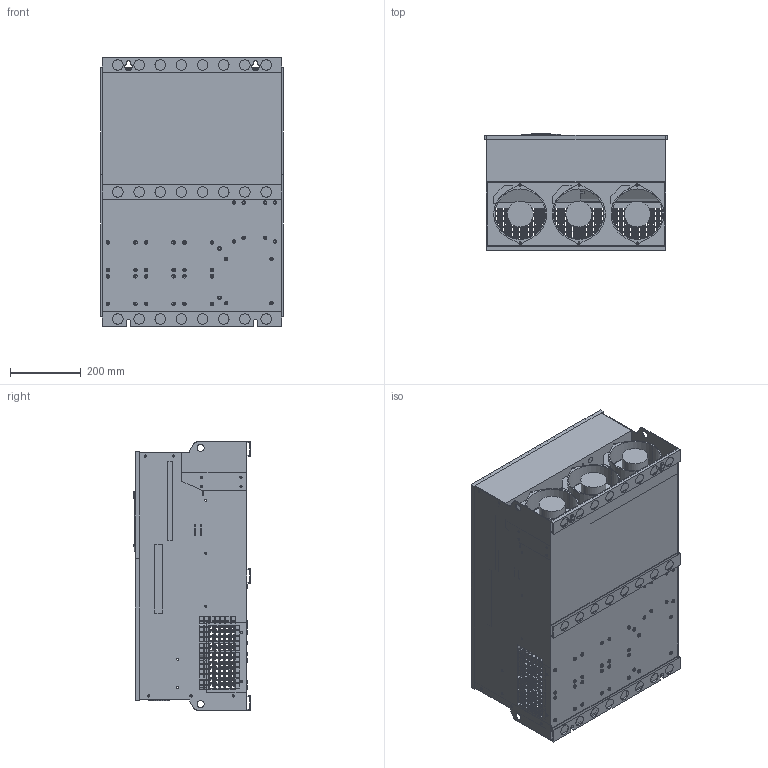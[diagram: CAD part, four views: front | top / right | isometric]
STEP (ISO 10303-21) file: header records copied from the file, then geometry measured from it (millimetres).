
FILE_DESCRIPTION((''),'2;1');
FILE_NAME('PRT0001','2015-11-11T',('Administrator'),(''),'PRO/ENGINEER BY PARAMETRIC TECHNOLOGY CORPORATION, 2013150','PRO/ENGINEER BY PARAMETRIC TECHNOLOGY CORPORATION, 2013150','');
FILE_SCHEMA(('CONFIG_CONTROL_DESIGN'));
Length unit declared in the file: millimetre
Products named in the file (1): PRT0001
Bounding box: 516 x 331.45 x 760 mm (x, y, z)
Surface area: 2783741.3 mm2 (no closed solid volume)
Topology: 0 solids, 74 shells, 235 faces, 4869 edges, 4693 vertices
Faces by surface type: plane 178, cylinder 48, torus 6, bspline 3
Entity records: 44129 total; most frequent: CARTESIAN_POINT 10242, DIRECTION 6129, ORIENTED_EDGE 5159, EDGE_CURVE 4869, VERTEX_POINT 4693, VECTOR 3985, LINE 3985, EDGE_LOOP 1288
